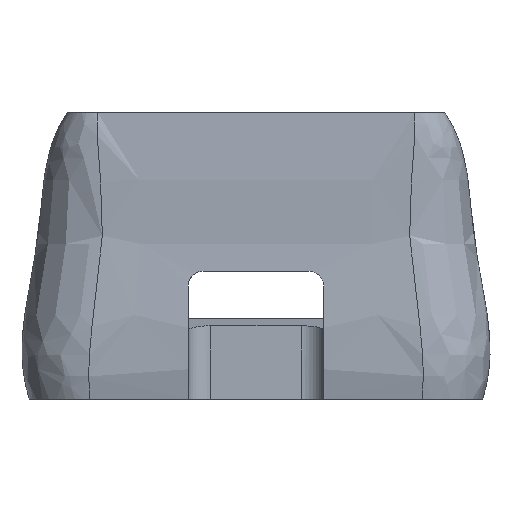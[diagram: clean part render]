
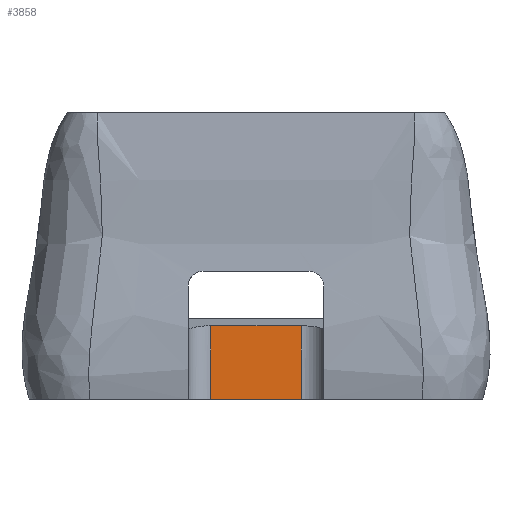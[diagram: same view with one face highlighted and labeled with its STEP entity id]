
A CAD part, front view. The second image highlights one B-rep face of the part: STEP entity #3858.
In plain terms, the highlighted planar face has unit normal (0, -1, 0).
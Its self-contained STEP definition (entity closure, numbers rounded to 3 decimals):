
#162 = PLANE('',#163);
#163 = AXIS2_PLACEMENT_3D('',#164,#165,#166);
#164 = CARTESIAN_POINT('',(-22.,-37.5,0.));
#165 = DIRECTION('',(0.,-0.,1.));
#166 = DIRECTION('',(0.759,0.652,0.));
#992 = VERTEX_POINT('',#993);
#993 = CARTESIAN_POINT('',(-6.,2.,0.));
#1008 = CYLINDRICAL_SURFACE('',#1009,3.);
#1009 = AXIS2_PLACEMENT_3D('',#1010,#1011,#1012);
#1010 = CARTESIAN_POINT('',(-6.,-1.,-1.));
#1011 = DIRECTION('',(0.,0.,1.));
#1012 = DIRECTION('',(-1.,-0.,0.));
#1020 = EDGE_CURVE('',#1021,#992,#1023,.T.);
#1021 = VERTEX_POINT('',#1022);
#1022 = CARTESIAN_POINT('',(6.,2.,0.));
#1023 = SURFACE_CURVE('',#1024,(#1028,#1035),.PCURVE_S1.);
#1024 = LINE('',#1025,#1026);
#1025 = CARTESIAN_POINT('',(-15.5,2.,0.));
#1026 = VECTOR('',#1027,1.);
#1027 = DIRECTION('',(-1.,0.,0.));
#1028 = PCURVE('',#162,#1029);
#1029 = DEFINITIONAL_REPRESENTATION('',(#1030),#1034);
#1030 = LINE('',#1031,#1032);
#1031 = CARTESIAN_POINT('',(30.669,25.727));
#1032 = VECTOR('',#1033,1.);
#1033 = DIRECTION('',(-0.759,0.652));
#1034 = ( GEOMETRIC_REPRESENTATION_CONTEXT(2) 
PARAMETRIC_REPRESENTATION_CONTEXT() REPRESENTATION_CONTEXT('2D SPACE',''
  ) );
#1035 = PCURVE('',#1036,#1041);
#1036 = PLANE('',#1037);
#1037 = AXIS2_PLACEMENT_3D('',#1038,#1039,#1040);
#1038 = CARTESIAN_POINT('',(-9.,2.,-1.));
#1039 = DIRECTION('',(0.,1.,0.));
#1040 = DIRECTION('',(0.,-0.,1.));
#1041 = DEFINITIONAL_REPRESENTATION('',(#1042),#1046);
#1042 = LINE('',#1043,#1044);
#1043 = CARTESIAN_POINT('',(1.,-6.5));
#1044 = VECTOR('',#1045,1.);
#1045 = DIRECTION('',(0.,-1.));
#1046 = ( GEOMETRIC_REPRESENTATION_CONTEXT(2) 
PARAMETRIC_REPRESENTATION_CONTEXT() REPRESENTATION_CONTEXT('2D SPACE',''
  ) );
#1065 = CYLINDRICAL_SURFACE('',#1066,3.);
#1066 = AXIS2_PLACEMENT_3D('',#1067,#1068,#1069);
#1067 = CARTESIAN_POINT('',(6.,-1.,-1.));
#1068 = DIRECTION('',(0.,0.,1.));
#1069 = DIRECTION('',(1.,0.,-0.));
#2504 = PLANE('',#2505);
#2505 = AXIS2_PLACEMENT_3D('',#2506,#2507,#2508);
#2506 = CARTESIAN_POINT('',(-28.4,9.296,11.304));
#2507 = DIRECTION('',(0.,-0.208,0.978));
#2508 = DIRECTION('',(1.,0.,0.));
#3808 = VERTEX_POINT('',#3809);
#3809 = CARTESIAN_POINT('',(-6.,2.,9.753));
#3836 = EDGE_CURVE('',#992,#3808,#3837,.T.);
#3837 = SURFACE_CURVE('',#3838,(#3842,#3849),.PCURVE_S1.);
#3838 = LINE('',#3839,#3840);
#3839 = CARTESIAN_POINT('',(-6.,2.,-1.));
#3840 = VECTOR('',#3841,1.);
#3841 = DIRECTION('',(0.,0.,1.));
#3842 = PCURVE('',#1008,#3843);
#3843 = DEFINITIONAL_REPRESENTATION('',(#3844),#3848);
#3844 = LINE('',#3845,#3846);
#3845 = CARTESIAN_POINT('',(4.712,0.));
#3846 = VECTOR('',#3847,1.);
#3847 = DIRECTION('',(-0.,1.));
#3848 = ( GEOMETRIC_REPRESENTATION_CONTEXT(2) 
PARAMETRIC_REPRESENTATION_CONTEXT() REPRESENTATION_CONTEXT('2D SPACE',''
  ) );
#3849 = PCURVE('',#1036,#3850);
#3850 = DEFINITIONAL_REPRESENTATION('',(#3851),#3855);
#3851 = LINE('',#3852,#3853);
#3852 = CARTESIAN_POINT('',(0.,3.));
#3853 = VECTOR('',#3854,1.);
#3854 = DIRECTION('',(1.,0.));
#3855 = ( GEOMETRIC_REPRESENTATION_CONTEXT(2) 
PARAMETRIC_REPRESENTATION_CONTEXT() REPRESENTATION_CONTEXT('2D SPACE',''
  ) );
#3858 = ADVANCED_FACE('',(#3859),#1036,.F.);
#3859 = FACE_BOUND('',#3860,.F.);
#3860 = EDGE_LOOP('',(#3861,#3862,#3863,#3886));
#3861 = ORIENTED_EDGE('',*,*,#1020,.T.);
#3862 = ORIENTED_EDGE('',*,*,#3836,.T.);
#3863 = ORIENTED_EDGE('',*,*,#3864,.F.);
#3864 = EDGE_CURVE('',#3865,#3808,#3867,.T.);
#3865 = VERTEX_POINT('',#3866);
#3866 = CARTESIAN_POINT('',(6.,2.,9.753));
#3867 = SURFACE_CURVE('',#3868,(#3872,#3879),.PCURVE_S1.);
#3868 = LINE('',#3869,#3870);
#3869 = CARTESIAN_POINT('',(-18.7,2.,9.753));
#3870 = VECTOR('',#3871,1.);
#3871 = DIRECTION('',(-1.,0.,0.));
#3872 = PCURVE('',#1036,#3873);
#3873 = DEFINITIONAL_REPRESENTATION('',(#3874),#3878);
#3874 = LINE('',#3875,#3876);
#3875 = CARTESIAN_POINT('',(10.753,-9.7));
#3876 = VECTOR('',#3877,1.);
#3877 = DIRECTION('',(0.,-1.));
#3878 = ( GEOMETRIC_REPRESENTATION_CONTEXT(2) 
PARAMETRIC_REPRESENTATION_CONTEXT() REPRESENTATION_CONTEXT('2D SPACE',''
  ) );
#3879 = PCURVE('',#2504,#3880);
#3880 = DEFINITIONAL_REPRESENTATION('',(#3881),#3885);
#3881 = LINE('',#3882,#3883);
#3882 = CARTESIAN_POINT('',(9.7,-7.459));
#3883 = VECTOR('',#3884,1.);
#3884 = DIRECTION('',(-1.,0.));
#3885 = ( GEOMETRIC_REPRESENTATION_CONTEXT(2) 
PARAMETRIC_REPRESENTATION_CONTEXT() REPRESENTATION_CONTEXT('2D SPACE',''
  ) );
#3886 = ORIENTED_EDGE('',*,*,#3887,.F.);
#3887 = EDGE_CURVE('',#1021,#3865,#3888,.T.);
#3888 = SURFACE_CURVE('',#3889,(#3893,#3900),.PCURVE_S1.);
#3889 = LINE('',#3890,#3891);
#3890 = CARTESIAN_POINT('',(6.,2.,-1.));
#3891 = VECTOR('',#3892,1.);
#3892 = DIRECTION('',(0.,0.,1.));
#3893 = PCURVE('',#1036,#3894);
#3894 = DEFINITIONAL_REPRESENTATION('',(#3895),#3899);
#3895 = LINE('',#3896,#3897);
#3896 = CARTESIAN_POINT('',(0.,15.));
#3897 = VECTOR('',#3898,1.);
#3898 = DIRECTION('',(1.,0.));
#3899 = ( GEOMETRIC_REPRESENTATION_CONTEXT(2) 
PARAMETRIC_REPRESENTATION_CONTEXT() REPRESENTATION_CONTEXT('2D SPACE',''
  ) );
#3900 = PCURVE('',#1065,#3901);
#3901 = DEFINITIONAL_REPRESENTATION('',(#3902),#3906);
#3902 = LINE('',#3903,#3904);
#3903 = CARTESIAN_POINT('',(1.571,0.));
#3904 = VECTOR('',#3905,1.);
#3905 = DIRECTION('',(0.,1.));
#3906 = ( GEOMETRIC_REPRESENTATION_CONTEXT(2) 
PARAMETRIC_REPRESENTATION_CONTEXT() REPRESENTATION_CONTEXT('2D SPACE',''
  ) );
